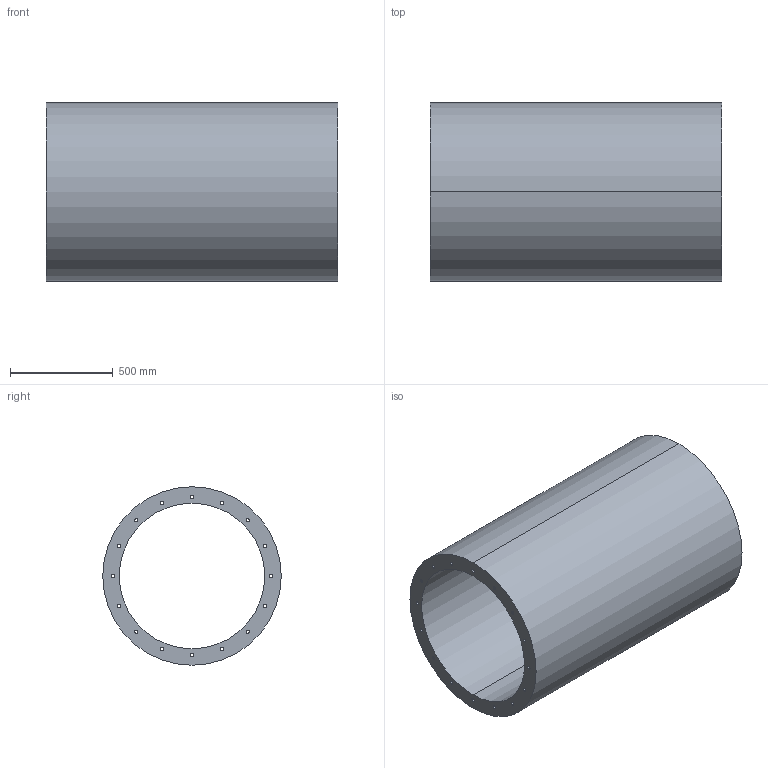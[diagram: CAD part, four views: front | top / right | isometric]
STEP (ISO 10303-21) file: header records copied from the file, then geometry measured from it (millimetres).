
FILE_DESCRIPTION(('STEP AP214'),'1');
FILE_NAME('accessory_5211811800.stp','2017-10-09T11:38:01',('TraceParts'),('TraceParts S.A.'),'Spatial InterOp 3D',' ',' ');
FILE_SCHEMA(('automotive_design'));
Length unit declared in the file: millimetre
Products named in the file (1): accessory_5211811800
Bounding box: 1420 x 870 x 870 mm (x, y, z)
Volume: 277370964.1 mm3; surface area: 8581172.4 mm2
Topology: 1 solids, 1 shells, 38 faces, 108 edges, 72 vertices
Faces by surface type: cylinder 36, plane 2
Entity records: 1672 total; most frequent: DIRECTION 258, CARTESIAN_POINT 219, ORIENTED_EDGE 216, AXIS2_PLACEMENT_3D 111, EDGE_CURVE 108, EDGE_LOOP 72, VERTEX_POINT 72, CIRCLE 72
